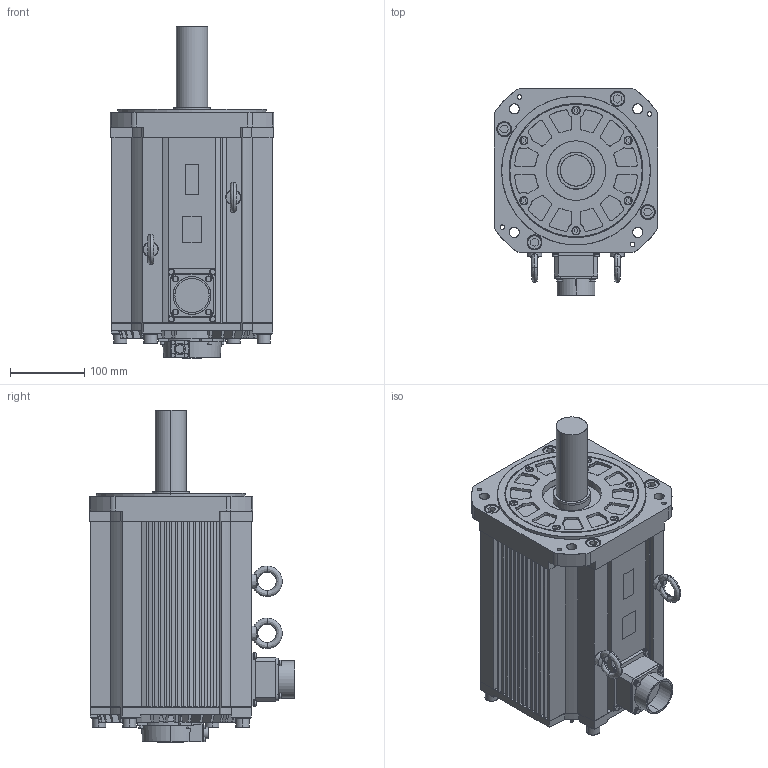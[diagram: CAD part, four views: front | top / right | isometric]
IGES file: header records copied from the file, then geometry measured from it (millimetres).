
Start section: SolidWorks IGES file using analytic representation for surfaces
Global section: file name: D:\YASKAWA\sgmgv_1a__a21.IGS; native system: SolidWorks 2006 by SolidWorks Corporation; preprocessor: SolidWorks 2006 by SolidWorks Corporation; author: yamanouchi; date: 100818.143025; units: millimetre
Bounding box: 220 x 277.08 x 446.6 mm (x, y, z)
Surface area: 629297.5 mm2 (no closed solid volume)
Topology: 0 solids, 0 shells, 1232 faces, 13933 edges, 13933 vertices
Faces by surface type: bspline 776, revolution 456
